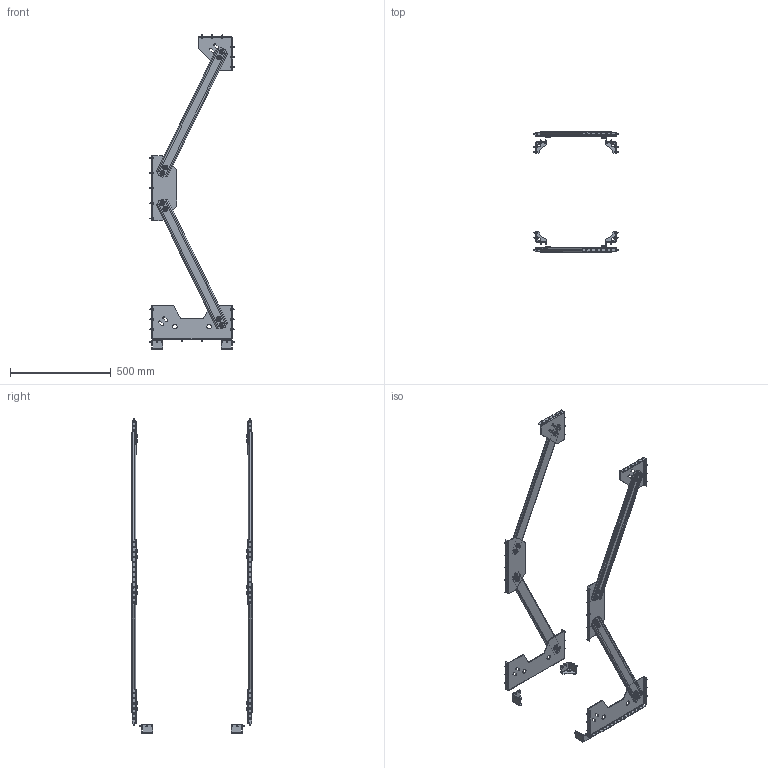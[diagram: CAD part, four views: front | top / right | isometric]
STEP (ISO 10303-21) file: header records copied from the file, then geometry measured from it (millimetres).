
FILE_DESCRIPTION(('STEP AP203'), '1');
FILE_NAME('3950.160.50 Ñåéñìîêîìïëåêò 1600õ500', '', ('UNSPECIFIED'), ('UNSPECIFIED'), 'C3D Converter', 'C3D Toolkit', '');
FILE_SCHEMA(('CONFIG_CONTROL_DESIGN'));
Length unit declared in the file: millimetre
Products named in the file (21): 3950.160.50; 3950.01; 3950.02; 3950.03.50; 3950.04; 3950.05.160.50
Assembly tree (152 placements, depth 2):
  3950.160.50
    3950.01  x2
    3950.02
    3950.03.50
    3950.04
    3950.05.160.50  x2
    (unnamed)  x16
    (unnamed)  x8
    (unnamed)  x8
    (unnamed)  x8
    (unnamed)  x37
    (unnamed)  x21
    (unnamed)  x8
    (unnamed)  x8
    (unnamed)  x8
    (unnamed)  x16
    3950.05.160.50  x2
    3950.04
    3950.03.50
    3950.02
    3950.01  x2
Bounding box: 422 x 598 x 1559.5 mm (x, y, z)
Volume: 1808852.8 mm3; surface area: 1285822.1 mm2
Topology: 152 solids, 152 shells, 2934 faces, 6848 edges, 4382 vertices
Faces by surface type: plane 1324, cylinder 570, cone 560, bspline 348, torus 132
Full cylindrical faces by diameter (mm): 4.8 x58, 6 x16, 6.5 x104, 6.647 x16, 8 x16, 9 x40, 14 x4, 22 x4, 24 x32
Entity records: 32548 total; most frequent: CARTESIAN_POINT 10593, DIRECTION 3946, ORIENTED_EDGE 3240, EDGE_CURVE 1620, AXIS2_PLACEMENT_3D 1551, EDGE_LOOP 1180, VERTEX_POINT 1104, FACE_BOUND 884
